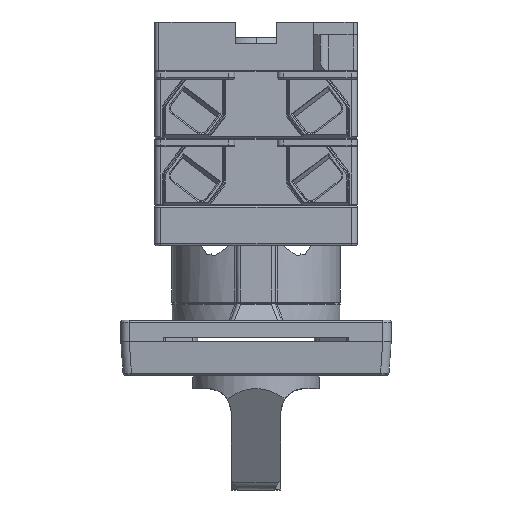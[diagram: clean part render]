
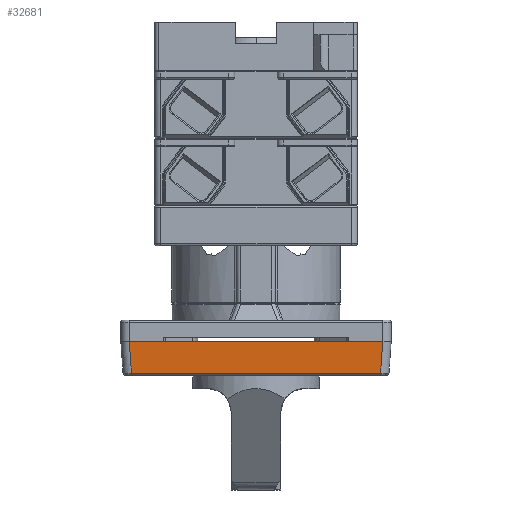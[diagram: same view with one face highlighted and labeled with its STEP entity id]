
A CAD part, front view. The second image highlights one B-rep face of the part: STEP entity #32681.
In plain terms, the highlighted planar face has unit normal (0, -0.998, -0.07).
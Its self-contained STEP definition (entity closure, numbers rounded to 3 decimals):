
#5193 = PLANE ( 'NONE',  #156938 ) ;
#6061 = EDGE_CURVE ( 'NONE', #124858, #84819, #161975, .T. ) ;
#7871 = CARTESIAN_POINT ( 'NONE',  ( -23.644, -37.111, -219.682 ) ) ;
#9938 = CARTESIAN_POINT ( 'NONE',  ( 38.361, -37.111, -219.682 ) ) ;
#14972 = DIRECTION ( 'NONE',  ( -1., 0., 0. ) ) ;
#15401 = DIRECTION ( 'NONE',  ( 0.07, 0.07, -0.995 ) ) ;
#18829 = FACE_OUTER_BOUND ( 'NONE', #86049, .T. ) ;
#21309 = VECTOR ( 'NONE', #109269, 1000. ) ;
#25969 = EDGE_CURVE ( 'NONE', #44223, #124858, #133438, .T. ) ;
#31805 = LINE ( 'NONE', #120317, #166763 ) ;
#32681 = ADVANCED_FACE ( 'NONE', ( #18829 ), #5193, .F. ) ;
#39220 = CARTESIAN_POINT ( 'NONE',  ( 35.839, -36.584, -227.217 ) ) ;
#40396 = CARTESIAN_POINT ( 'NONE',  ( -23.117, -36.584, -227.217 ) ) ;
#44223 = VERTEX_POINT ( 'NONE', #166525 ) ;
#70015 = VECTOR ( 'NONE', #15401, 1000. ) ;
#71748 = VERTEX_POINT ( 'NONE', #39220 ) ;
#75204 = EDGE_CURVE ( 'NONE', #84819, #71748, #86841, .T. ) ;
#84819 = VERTEX_POINT ( 'NONE', #40396 ) ;
#86049 = EDGE_LOOP ( 'NONE', ( #151047, #149353, #139547, #124465 ) ) ;
#86841 = LINE ( 'NONE', #107584, #21309 ) ;
#105688 = CARTESIAN_POINT ( 'NONE',  ( -23.498, -36.965, -221.76 ) ) ;
#107165 = DIRECTION ( 'NONE',  ( 0.07, -0.07, 0.995 ) ) ;
#107584 = CARTESIAN_POINT ( 'NONE',  ( 35.807, -36.584, -227.217 ) ) ;
#109269 = DIRECTION ( 'NONE',  ( 1., 0., 0. ) ) ;
#110896 = CARTESIAN_POINT ( 'NONE',  ( 6.361, -37.111, -219.682 ) ) ;
#120317 = CARTESIAN_POINT ( 'NONE',  ( 36.376, -37.12, -219.544 ) ) ;
#124465 = ORIENTED_EDGE ( 'NONE', *, *, #25969, .T. ) ;
#124858 = VERTEX_POINT ( 'NONE', #7871 ) ;
#133438 = LINE ( 'NONE', #9938, #147709 ) ;
#137012 = EDGE_CURVE ( 'NONE', #71748, #44223, #31805, .T. ) ;
#137150 = DIRECTION ( 'NONE',  ( 0., 0.998, 0.07 ) ) ;
#139547 = ORIENTED_EDGE ( 'NONE', *, *, #137012, .T. ) ;
#147709 = VECTOR ( 'NONE', #14972, 1000. ) ;
#149353 = ORIENTED_EDGE ( 'NONE', *, *, #75204, .T. ) ;
#151047 = ORIENTED_EDGE ( 'NONE', *, *, #6061, .T. ) ;
#156938 = AXIS2_PLACEMENT_3D ( 'NONE', #110896, #137150, #161741 ) ;
#161741 = DIRECTION ( 'NONE',  ( 0., 0.07, -0.998 ) ) ;
#161975 = LINE ( 'NONE', #105688, #70015 ) ;
#166525 = CARTESIAN_POINT ( 'NONE',  ( 36.366, -37.111, -219.682 ) ) ;
#166763 = VECTOR ( 'NONE', #107165, 1000. ) ;
